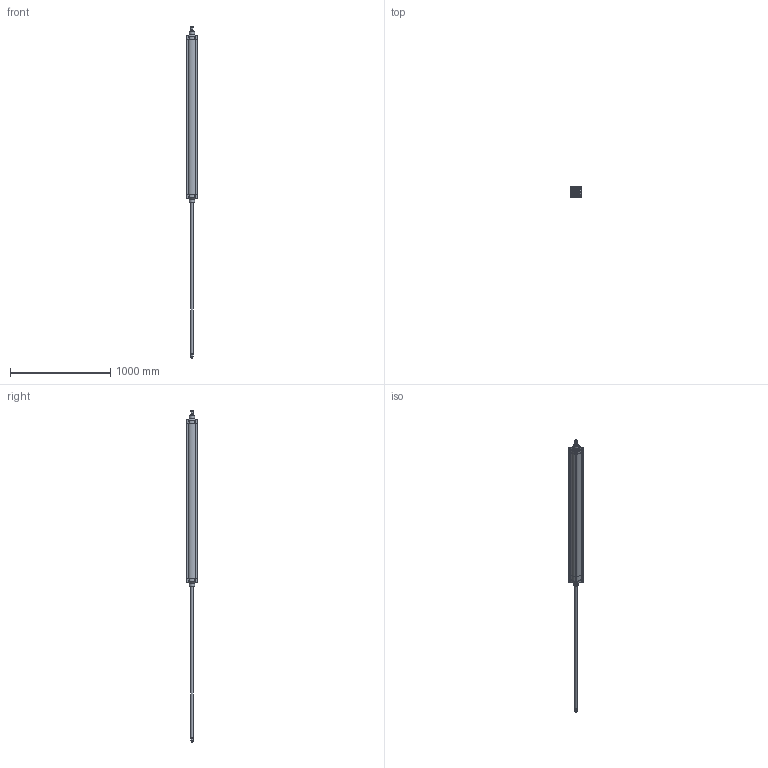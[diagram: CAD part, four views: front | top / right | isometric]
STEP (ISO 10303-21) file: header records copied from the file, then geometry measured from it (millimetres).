
FILE_DESCRIPTION(/* description */ ('Unknown'),/* implementation_level */ '2;1');
FILE_NAME(/* name */ 'HBF 100_1500',/* time_stamp */ '2025-01-13T14:38:06+01:00',/* author */ ('Unknown'),/* organization */ ('HAFNER Pneumatika Kft'),/* preprocessor_version */ 'ST-DEVELOPER v16.7',/* originating_system */ 'Solid Edge',/* authorisation */ 'Unknown');
FILE_SCHEMA (('AUTOMOTIVE_DESIGN {1 0 10303 214 3 1 1}'));
Length unit declared in the file: millimetre
Products named in the file (6): HBF 100_1500; Kit; Profilrohr; Kolbenstange_1; Mutter; Kolbenstange_2
Assembly tree (7 placements, depth 2):
  HBF 100_1500
    Kit  x2
    Profilrohr
    Kolbenstange_1
    Mutter  x2
    Kolbenstange_2
Bounding box: 110 x 110 x 3320 mm (x, y, z)
Volume: 5262008.5 mm3; surface area: 2095444.1 mm2
Topology: 7 solids, 23 shells, 1381 faces, 3383 edges, 2088 vertices
Faces by surface type: cylinder 475, plane 426, cone 168, torus 112, sphere 108, bspline 92
Full cylindrical faces by diameter (mm): 8.376 x16, 10 x8, 10.3 x8, 12 x2, 16 x8, 16.3 x8, 17 x2, 17.5 x2, 18.376 x2, 18.62 x2, 18.631 x2, 20 x2, 24.5 x2, 25 x6, 25.6 x2, 25.8 x2, 25.962 x2, 30 x2, 35 x4, 52 x2, 55 x2, 100 x3
Entity records: 29890 total; most frequent: CARTESIAN_POINT 7254, ORIENTED_EDGE 3826, DIRECTION 3675, EDGE_CURVE 1913, AXIS2_PLACEMENT_3D 1481, VERTEX_POINT 1233, FACE_BOUND 908, EDGE_LOOP 904
